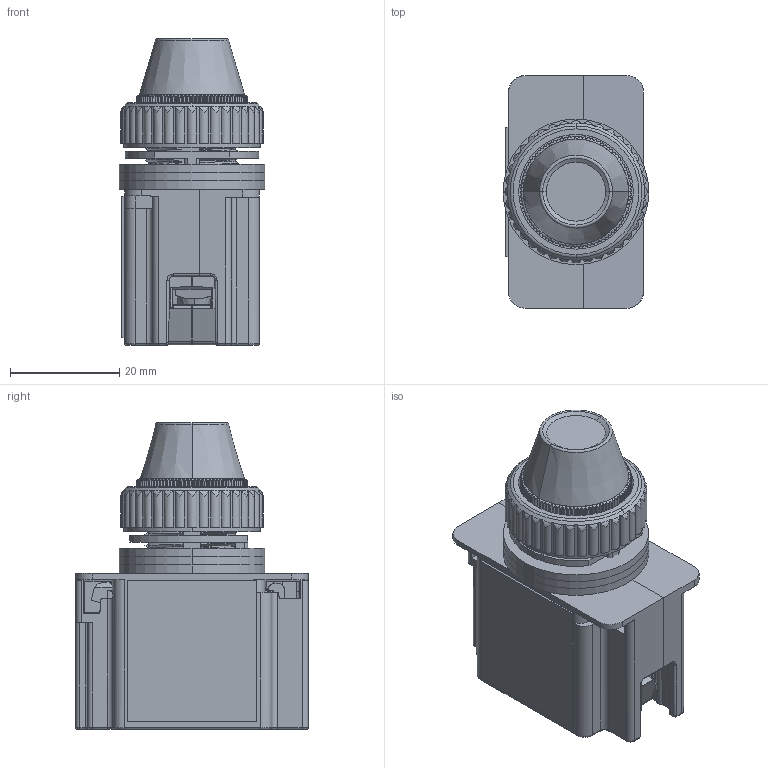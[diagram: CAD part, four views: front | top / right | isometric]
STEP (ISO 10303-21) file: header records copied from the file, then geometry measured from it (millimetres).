
FILE_DESCRIPTION((''),'2;1');
FILE_NAME('40209-284_ASM','2009-04-06T',('abschul1'),('Rockwell Automation'),'PRO/ENGINEER BY PARAMETRIC TECHNOLOGY CORPORATION, 2004320','PRO/ENGINEER BY PARAMETRIC TECHNOLOGY CORPORATION, 2004320','');
FILE_SCHEMA(('CONFIG_CONTROL_DESIGN'));
Length unit declared in the file: inch
Products named in the file (20): 40209-104; 40359-069; 40359-314-1; 40359-29191-656; 40359-260-03; 40359-310-52_ASM; 40359-260-02; 40359-310-51_ASM; 40359-314-310A; 40359-314-1-310_ASM; 40359-070; 40359-482_ASM; 40209-100; 40209-106; 40209-097; 40209-099; 40209-269_ASM; 40209-098; 47010-129-18MM-LBL; 40209-284_ASM
Assembly tree (22 placements, depth 5):
  40209-284_ASM
    40209-104
    40359-482_ASM
      40359-069
      40359-314-1-310_ASM
        40359-314-1
        40359-310-52_ASM
          40359-29191-656
          40359-260-03
        40359-310-51_ASM
          40359-29191-656
          40359-260-02
        40359-314-310A
      40359-070
    40209-100  x3
    40209-106
    40209-269_ASM
      40209-097
      40209-099
    40209-098
    47010-129-18MM-LBL
Bounding box: 26.67 x 42.67 x 56.16 mm (x, y, z)
Volume: 17811.6 mm3; surface area: 29044.2 mm2
Topology: 19 solids, 21 shells, 3587 faces, 9645 edges, 6132 vertices
Faces by surface type: plane 1992, cylinder 850, cone 281, bspline 193, torus 155, sphere 116
Entity records: 135698 total; most frequent: CARTESIAN_POINT 49597, ORIENTED_EDGE 19042, DIRECTION 16337, EDGE_CURVE 9529, VERTEX_POINT 6056, AXIS2_PLACEMENT_3D 5446, VECTOR 5445, LINE 5445
